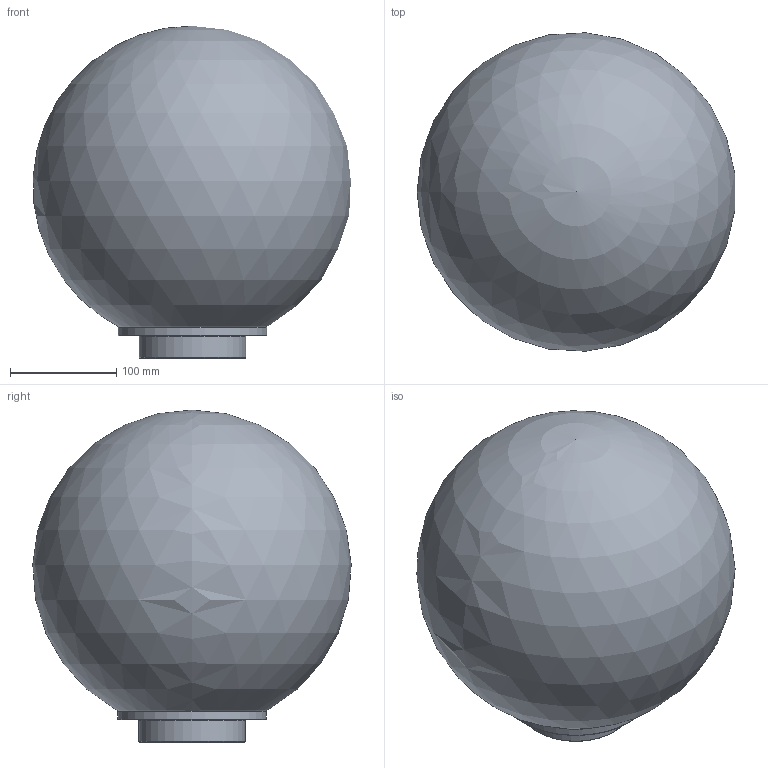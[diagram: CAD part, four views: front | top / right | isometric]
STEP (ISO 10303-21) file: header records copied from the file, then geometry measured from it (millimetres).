
FILE_DESCRIPTION(/* description */ (''),/* implementation_level */ '2;1');
FILE_NAME(/* name */ 'C:/Users/LukasGröber/GMS Cloud/Groeber Mannheim Lichtwerke - Dokumente/Marketing/Produkte/3D Daten/Snowball Stationär/Snowball 30 Stationär.step',/* time_stamp */ '2022-07-08T11:06:33+02:00',/* author */ (''),/* organization */ (''),/* preprocessor_version */ 'ST-DEVELOPER v19',/* originating_system */ 'Autodesk Translation Framework v11.7.0.108',/* authorisation */ '');
FILE_SCHEMA (('AUTOMOTIVE_DESIGN { 1 0 10303 214 3 1 1 }'));
Length unit declared in the file: millimetre
Products named in the file (3): Snowball 30 Stationär; Ring Stationär 30-60 (Modell); Snowball 300 Öffnung 80
Assembly tree (2 placements, depth 2):
  Snowball 30 Stationär
    Ring Stationär 30-60 (Modell)
    Snowball 300 Öffnung 80
Bounding box: 298.69 x 299.36 x 312.17 mm (x, y, z)
Volume: 1007197.2 mm3; surface area: 575741.6 mm2
Topology: 2 solids, 2 shells, 15 faces, 33 edges, 21 vertices
Faces by surface type: cylinder 4, cone 3, plane 3, torus 3, sphere 2
Full cylindrical faces by diameter (mm): 82.828 x1, 94 x1, 100 x1, 140 x1
Entity records: 520 total; most frequent: DIRECTION 95, CARTESIAN_POINT 72, ORIENTED_EDGE 62, AXIS2_PLACEMENT_3D 44, EDGE_CURVE 31, CIRCLE 24, VERTEX_POINT 21, EDGE_LOOP 18
